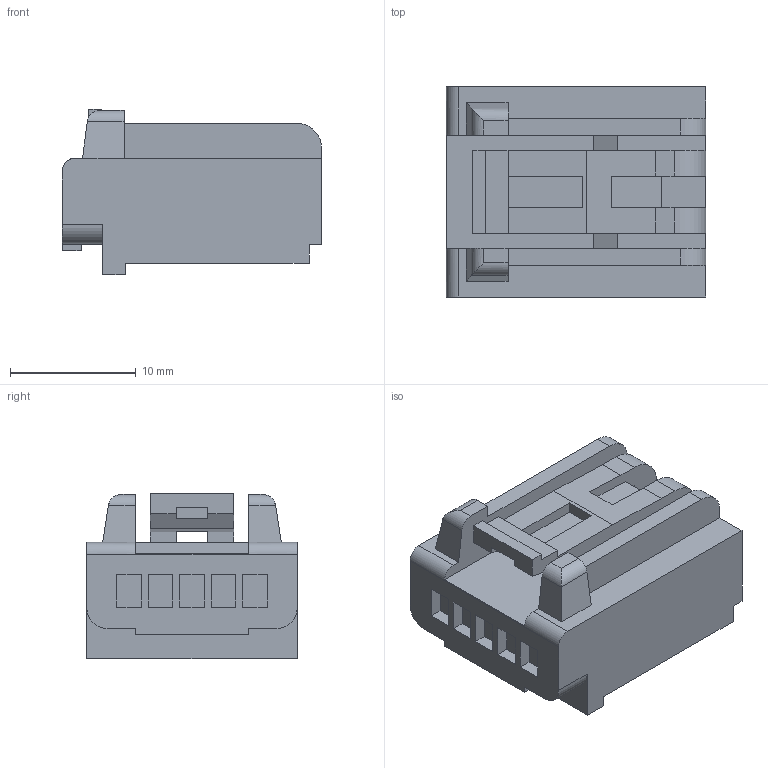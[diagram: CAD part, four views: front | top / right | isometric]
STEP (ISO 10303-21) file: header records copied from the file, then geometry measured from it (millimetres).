
FILE_DESCRIPTION(('CATIA V5 STEP Exchange','CAx-IF Rec.Pracs.--- Model Styling and Organization---1.2---2011-12-15'),'2;1');
FILE_NAME('\\Fss01.ad.sws.co.jp\fs030008\技術管理部\個人\中田\カタログ３D関係\(HE) 3Dcatalog stepfile\追加\1.0\6098-2779.stp','2016-06-27T23:41:29+00:00',('none'),('none'),'CATIA Version 5-6 Release 2012 SP4 HF74','CATIA V5 STEP AP214','none');
FILE_SCHEMA(('AUTOMOTIVE_DESIGN { 1 0 10303 214 1 1 1 1 }'));
Length unit declared in the file: millimetre
Products named in the file (1): 6098-2779
Bounding box: 20.6 x 16.7 x 13.15 mm (x, y, z)
Volume: 2696.4 mm3; surface area: 2038.1 mm2
Topology: 1 solids, 1 shells, 125 faces, 356 edges, 239 vertices
Faces by surface type: plane 114, cylinder 11
Entity records: 3837 total; most frequent: ORIENTED_EDGE 712, CARTESIAN_POINT 707, DIRECTION 522, EDGE_CURVE 356, VECTOR 332, LINE 332, VERTEX_POINT 239, EDGE_LOOP 135
